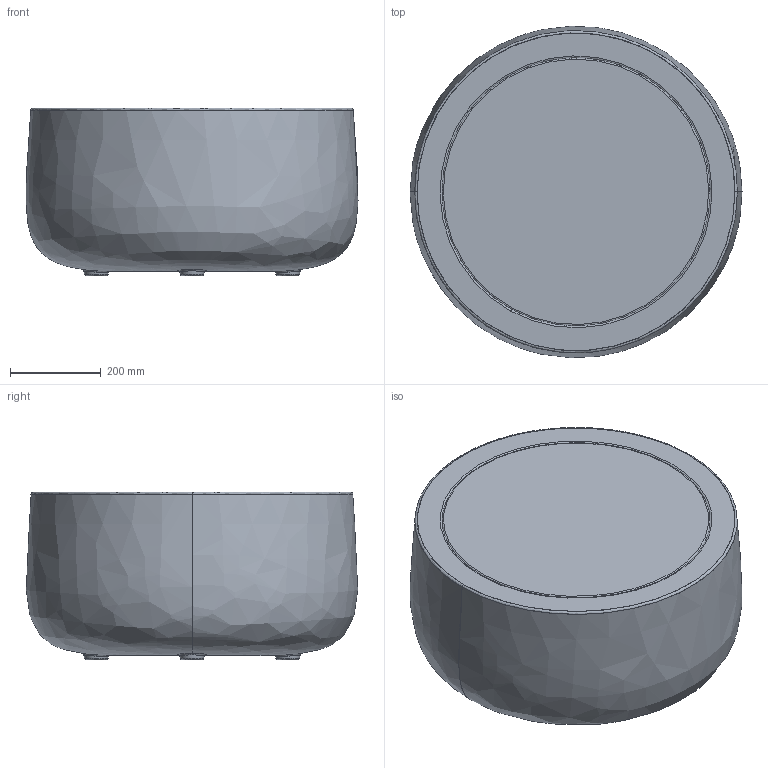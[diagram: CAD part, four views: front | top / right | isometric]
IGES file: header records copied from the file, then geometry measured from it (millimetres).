
Start section: START RECORD GO HERE.
Global section: file name: Tavolino-Bold.igs; native system: DASSAULT SYSTEMES CATIA Version 5-6 Release 2014 - www.3ds.com; preprocessor: V5-6R2014_5.24.5.0.02-24-2015.20.00; author: samatori; organization: DOMAIN; date: 20160420.151320; units: millimetre
Bounding box: 731.75 x 730.52 x 370 mm (x, y, z)
Surface area: 2082665.9 mm2 (no closed solid volume)
Topology: 0 solids, 0 shells, 4916 faces, 28956 edges, 28956 vertices
Faces by surface type: plane 4760, bspline 95, revolution 61
